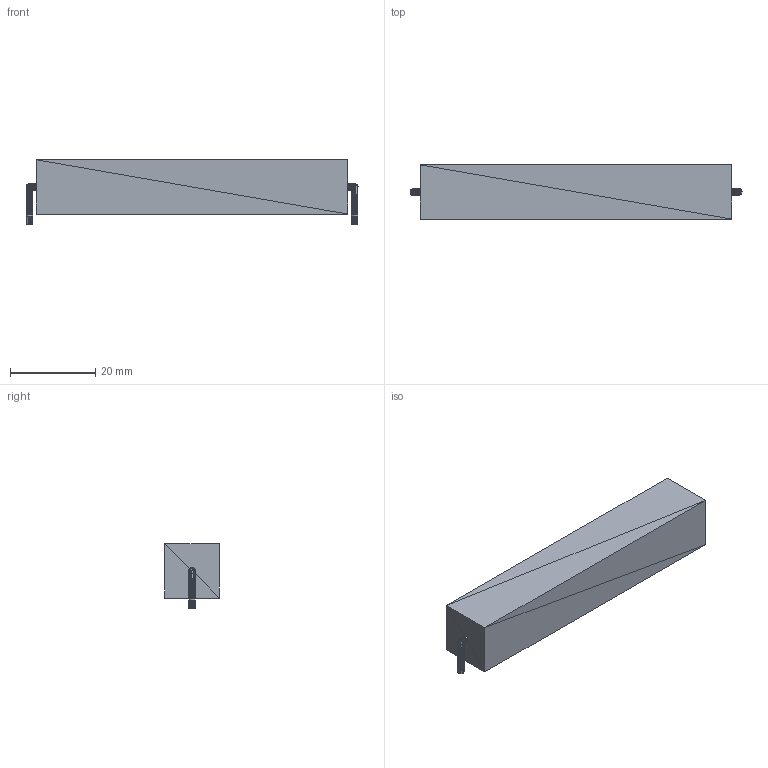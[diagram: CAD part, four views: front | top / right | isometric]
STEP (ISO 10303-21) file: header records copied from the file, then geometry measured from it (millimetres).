
FILE_DESCRIPTION(('HOOPS Exchange Step'),'2;1');
FILE_NAME('***.stp');
FILE_SCHEMA( ('AP242_MANAGED_MODEL_BASED_3D_ENGINEERING_MIM_LF {1 0 10303 442 1 1 4 }') );
Length unit declared in the file: inch
Products named in the file (8): R20W_2; R20W_3; R20W_4; R20W_5; R20W_6; R20W_7; R20W_8; R20W
Assembly tree (7 placements, depth 2):
  R20W
    R20W_2
    R20W_3
    R20W_4
    R20W_5
    R20W_6
    R20W_7
    R20W_8
Bounding box: 77.72 x 12.7 x 15.08 mm (x, y, z)
Volume: 11820.2 mm3; surface area: 4163.6 mm2
Topology: 7 solids, 7 shells, 1228 faces, 1842 edges, 628 vertices
Faces by surface type: plane 1228
Entity records: 24310 total; most frequent: DIRECTION 4330, CARTESIAN_POINT 3714, ORIENTED_EDGE 3684, VECTOR 1842, LINE 1842, EDGE_CURVE 1842, AXIS2_PLACEMENT_3D 1244, PLANE 1228
